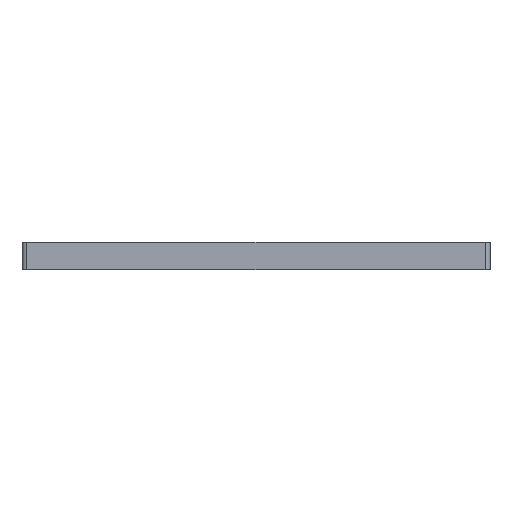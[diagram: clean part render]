
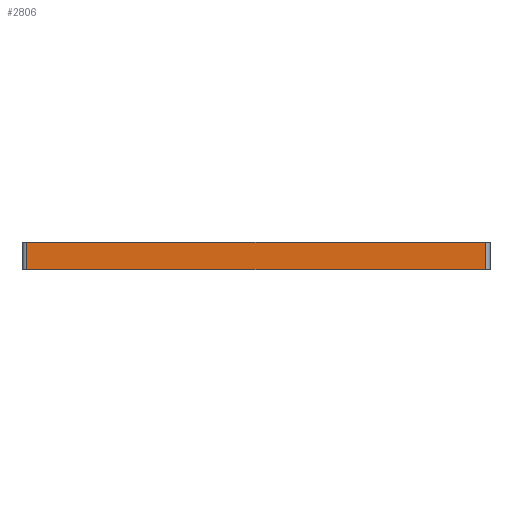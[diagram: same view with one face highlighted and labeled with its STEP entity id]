
A CAD part, top view. The second image highlights one B-rep face of the part: STEP entity #2806.
In plain terms, the highlighted planar face has unit normal (0, 0, 1).
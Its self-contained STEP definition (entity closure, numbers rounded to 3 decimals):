
#71 = VECTOR ( 'NONE', #2168, 1000. ) ;
#115 = CARTESIAN_POINT ( 'NONE',  ( -101.5, -5., 66. ) ) ;
#313 = VERTEX_POINT ( 'NONE', #2616 ) ;
#341 = ORIENTED_EDGE ( 'NONE', *, *, #1358, .T. ) ;
#426 = DIRECTION ( 'NONE',  ( -1., 0., 0. ) ) ;
#504 = EDGE_CURVE ( 'NONE', #313, #739, #2905, .T. ) ;
#524 = DIRECTION ( 'NONE',  ( -1., 0., 0. ) ) ;
#682 = ORIENTED_EDGE ( 'NONE', *, *, #504, .T. ) ;
#728 = LINE ( 'NONE', #1336, #1001 ) ;
#739 = VERTEX_POINT ( 'NONE', #115 ) ;
#791 = DIRECTION ( 'NONE',  ( 0., 0., -1. ) ) ;
#804 = ORIENTED_EDGE ( 'NONE', *, *, #4314, .T. ) ;
#924 = CARTESIAN_POINT ( 'NONE',  ( -103.5, 5., 66. ) ) ;
#1001 = VECTOR ( 'NONE', #1039, 1000. ) ;
#1039 = DIRECTION ( 'NONE',  ( 0., 1., 0. ) ) ;
#1273 = CARTESIAN_POINT ( 'NONE',  ( 101.5, -5., 66. ) ) ;
#1336 = CARTESIAN_POINT ( 'NONE',  ( 101.5, 5., 66. ) ) ;
#1358 = EDGE_CURVE ( 'NONE', #3116, #1432, #728, .T. ) ;
#1366 = EDGE_LOOP ( 'NONE', ( #804, #341, #3504, #682 ) ) ;
#1418 = FACE_OUTER_BOUND ( 'NONE', #1366, .T. ) ;
#1432 = VERTEX_POINT ( 'NONE', #3600 ) ;
#1507 = VECTOR ( 'NONE', #1559, 1000. ) ;
#1559 = DIRECTION ( 'NONE',  ( 1., 0., 0. ) ) ;
#1978 = LINE ( 'NONE', #3641, #1507 ) ;
#2168 = DIRECTION ( 'NONE',  ( 0., -1., 0. ) ) ;
#2492 = VECTOR ( 'NONE', #426, 1000. ) ;
#2616 = CARTESIAN_POINT ( 'NONE',  ( -101.5, 7., 66. ) ) ;
#2806 = ADVANCED_FACE ( 'NONE', ( #1418 ), #3217, .F. ) ;
#2856 = CARTESIAN_POINT ( 'NONE',  ( -101.5, 5., 66. ) ) ;
#2905 = LINE ( 'NONE', #2856, #71 ) ;
#3116 = VERTEX_POINT ( 'NONE', #1273 ) ;
#3217 = PLANE ( 'NONE',  #4067 ) ;
#3504 = ORIENTED_EDGE ( 'NONE', *, *, #3862, .T. ) ;
#3600 = CARTESIAN_POINT ( 'NONE',  ( 101.5, 7., 66. ) ) ;
#3641 = CARTESIAN_POINT ( 'NONE',  ( -103.5, -5., 66. ) ) ;
#3862 = EDGE_CURVE ( 'NONE', #1432, #313, #3941, .T. ) ;
#3941 = LINE ( 'NONE', #4083, #2492 ) ;
#4067 = AXIS2_PLACEMENT_3D ( 'NONE', #924, #791, #524 ) ;
#4083 = CARTESIAN_POINT ( 'NONE',  ( 106.328, 7., 66. ) ) ;
#4314 = EDGE_CURVE ( 'NONE', #739, #3116, #1978, .T. ) ;
